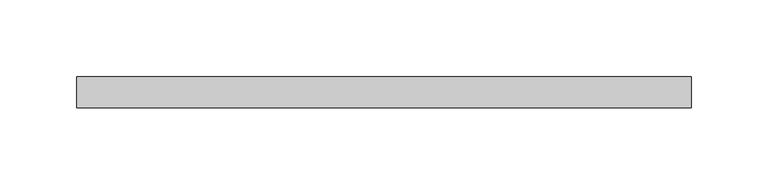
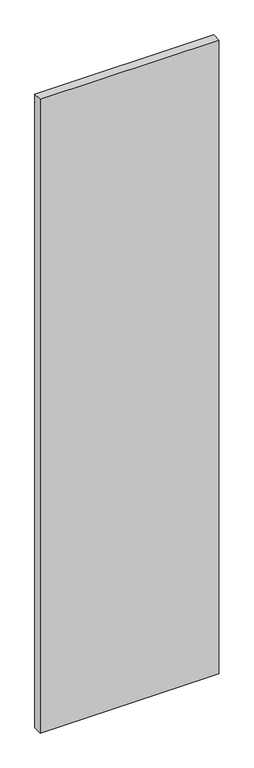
"""IFC4 building model written with IfcOpenShell, lengths in millimetres: proxy geometry, КНАУФ-Файерборд : КНАУФ-Файерборд."""

from ifc_helpers import new_model, si_unit, origin, origin_with_axes, place, context, project, spatial, polyline, outline, extrude, source, transform, mapped, element, save


def generic_models_7fcc82d4(model_context):
    return source(origin(), model_context, "Body", "SweptSolid", [
        extrude(outline(polyline([(200.0, 0.0), (200.0, -20.0), (-200.0, -20.0), (-200.0, 0.0), (200.0, 0.0)])), origin_with_axes(), (0.0, 0.0, 1.0), 1500.0),
    ])


if __name__ == "__main__":
    model = new_model("IFC4")
    model_context = context("Model", 3, world=origin())
    ifc_project = project(units=[si_unit("LENGTHUNIT", "METRE", prefix="MILLI")], contexts=[model_context])
    site = spatial("IfcSite", under=ifc_project)
    building = spatial("IfcBuilding", under=site)
    placement = place(None, origin())
    generic_models_shape = generic_models_7fcc82d4(model_context)
    element("IfcBuildingElementProxy", 1, Name="КНАУФ-Файерборд : КНАУФ-Файерборд", ObjectType="КНАУФ-Файерборд : КНАУФ-Файерборд", at=placement, inside=building, context=model_context, shape_type="MappedRepresentation", body=[
        mapped(generic_models_shape, transform((0.0, 0.0, 0.0), x_axis=(1.0, 0.0, 0.0), y_axis=(0.0, 1.0, 0.0), z_axis=(0.0, 0.0, 1.0))),
    ])
    save(model, "model.ifc")
